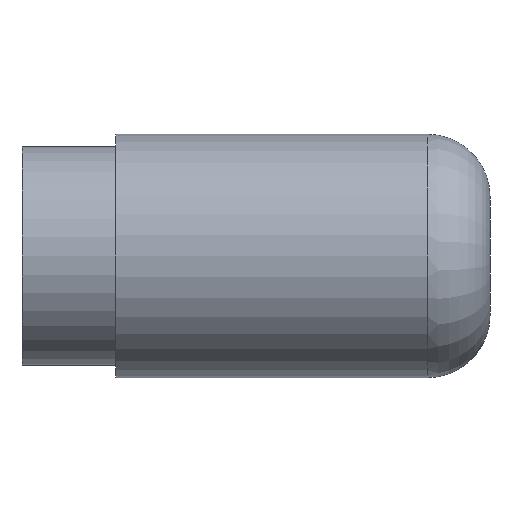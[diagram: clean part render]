
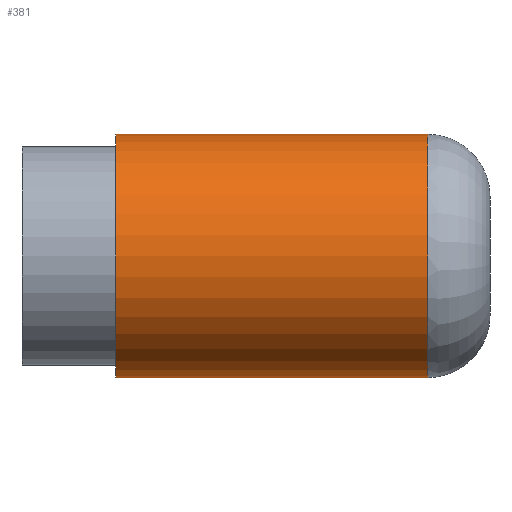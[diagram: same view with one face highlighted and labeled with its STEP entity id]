
A CAD part, left-side view. The second image highlights one B-rep face of the part: STEP entity #381.
In plain terms, the highlighted cylindrical face has radius 19.5 mm (diameter 39 mm), a partial arc.
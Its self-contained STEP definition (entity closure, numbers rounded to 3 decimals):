
#8 = EDGE_LOOP ( 'NONE', ( #321, #113, #319, #142 ) ) ;
#11 = DIRECTION ( 'NONE',  ( 0., 0., 1. ) ) ;
#16 = LINE ( 'NONE', #126, #133 ) ;
#54 = FACE_OUTER_BOUND ( 'NONE', #8, .T. ) ;
#75 = CARTESIAN_POINT ( 'NONE',  ( 0., 10., 19.5 ) ) ;
#88 = VECTOR ( 'NONE', #386, 1000. ) ;
#97 = CARTESIAN_POINT ( 'NONE',  ( 0., 10., -19.5 ) ) ;
#103 = EDGE_CURVE ( 'NONE', #232, #166, #290, .T. ) ;
#105 = DIRECTION ( 'NONE',  ( 0., 0., -1. ) ) ;
#107 = EDGE_CURVE ( 'NONE', #166, #234, #357, .T. ) ;
#108 = CYLINDRICAL_SURFACE ( 'NONE', #371, 19.5 ) ;
#113 = ORIENTED_EDGE ( 'NONE', *, *, #103, .F. ) ;
#124 = CARTESIAN_POINT ( 'NONE',  ( 0., 60., 0. ) ) ;
#126 = CARTESIAN_POINT ( 'NONE',  ( 0., 60., -19.5 ) ) ;
#133 = VECTOR ( 'NONE', #186, 1000. ) ;
#142 = ORIENTED_EDGE ( 'NONE', *, *, #190, .T. ) ;
#143 = DIRECTION ( 'NONE',  ( 0., 0., 1. ) ) ;
#144 = CARTESIAN_POINT ( 'NONE',  ( 0., 60., 19.5 ) ) ;
#156 = CARTESIAN_POINT ( 'NONE',  ( 0., 10., 0. ) ) ;
#166 = VERTEX_POINT ( 'NONE', #144 ) ;
#174 = DIRECTION ( 'NONE',  ( 0., 1., 0. ) ) ;
#176 = EDGE_CURVE ( 'NONE', #232, #226, #16, .T. ) ;
#183 = AXIS2_PLACEMENT_3D ( 'NONE', #156, #249, #11 ) ;
#185 = CARTESIAN_POINT ( 'NONE',  ( 0., 60., -19.5 ) ) ;
#186 = DIRECTION ( 'NONE',  ( 0., -1., 0. ) ) ;
#190 = EDGE_CURVE ( 'NONE', #226, #234, #354, .T. ) ;
#193 = AXIS2_PLACEMENT_3D ( 'NONE', #124, #174, #143 ) ;
#225 = CARTESIAN_POINT ( 'NONE',  ( 0., 60., 0. ) ) ;
#226 = VERTEX_POINT ( 'NONE', #97 ) ;
#232 = VERTEX_POINT ( 'NONE', #185 ) ;
#234 = VERTEX_POINT ( 'NONE', #75 ) ;
#249 = DIRECTION ( 'NONE',  ( 0., 1., 0. ) ) ;
#265 = CARTESIAN_POINT ( 'NONE',  ( 0., 60., 19.5 ) ) ;
#290 = CIRCLE ( 'NONE', #193, 19.5 ) ;
#319 = ORIENTED_EDGE ( 'NONE', *, *, #176, .T. ) ;
#321 = ORIENTED_EDGE ( 'NONE', *, *, #107, .F. ) ;
#344 = DIRECTION ( 'NONE',  ( 0., -1., 0. ) ) ;
#354 = CIRCLE ( 'NONE', #183, 19.5 ) ;
#357 = LINE ( 'NONE', #265, #88 ) ;
#371 = AXIS2_PLACEMENT_3D ( 'NONE', #225, #344, #105 ) ;
#381 = ADVANCED_FACE ( 'NONE', ( #54 ), #108, .T. ) ;
#386 = DIRECTION ( 'NONE',  ( 0., -1., 0. ) ) ;
